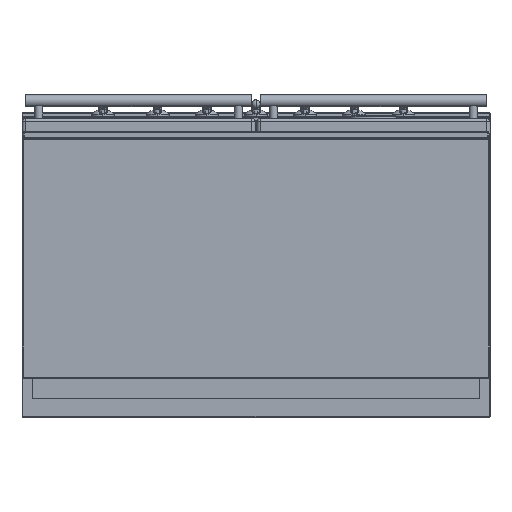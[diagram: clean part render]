
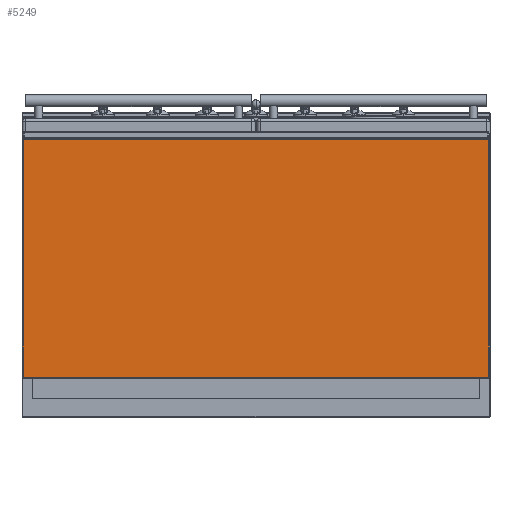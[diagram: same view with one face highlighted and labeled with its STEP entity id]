
A CAD part, front view. The second image highlights one B-rep face of the part: STEP entity #5249.
In plain terms, the highlighted planar face has unit normal (0, -1, 0).
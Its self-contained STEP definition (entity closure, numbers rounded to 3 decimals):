
#4955=DIRECTION('',(0.,0.,-1.));
#4956=VECTOR('',#4955,508.);
#4957=CARTESIAN_POINT('',(497.,0.,254.));
#4958=LINE('',#4957,#4956);
#4959=DIRECTION('',(-1.,0.,0.));
#4960=VECTOR('',#4959,994.);
#4961=CARTESIAN_POINT('',(497.,0.,-254.));
#4962=LINE('',#4961,#4960);
#4963=DIRECTION('',(0.,0.,1.));
#4964=VECTOR('',#4963,508.);
#4965=CARTESIAN_POINT('',(-497.,0.,-254.));
#4966=LINE('',#4965,#4964);
#4967=DIRECTION('',(-1.,0.,0.));
#4968=VECTOR('',#4967,994.);
#4969=CARTESIAN_POINT('',(497.,0.,254.));
#4970=LINE('',#4969,#4968);
#5199=CARTESIAN_POINT('',(497.,0.,254.));
#5200=CARTESIAN_POINT('',(497.,0.,-254.));
#5201=VERTEX_POINT('',#5199);
#5202=VERTEX_POINT('',#5200);
#5205=CARTESIAN_POINT('',(-497.,0.,254.));
#5206=VERTEX_POINT('',#5205);
#5209=CARTESIAN_POINT('',(-497.,0.,-254.));
#5210=VERTEX_POINT('',#5209);
#5235=CARTESIAN_POINT('',(-499.,0.,256.));
#5236=DIRECTION('',(0.,-1.,0.));
#5237=DIRECTION('',(0.,0.,-1.));
#5238=AXIS2_PLACEMENT_3D('',#5235,#5236,#5237);
#5239=PLANE('',#5238);
#5240=ORIENTED_EDGE('',*,*,#5224,.T.);
#5242=ORIENTED_EDGE('',*,*,#5241,.T.);
#5244=ORIENTED_EDGE('',*,*,#5243,.T.);
#5246=ORIENTED_EDGE('',*,*,#5245,.F.);
#5247=EDGE_LOOP('',(#5240,#5242,#5244,#5246));
#5248=FACE_OUTER_BOUND('',#5247,.F.);
#5224=EDGE_CURVE('',#5201,#5202,#4958,.T.);
#5241=EDGE_CURVE('',#5202,#5210,#4962,.T.);
#5243=EDGE_CURVE('',#5210,#5206,#4966,.T.);
#5245=EDGE_CURVE('',#5201,#5206,#4970,.T.);
#5249=ADVANCED_FACE('',(#5248),#5239,.T.);
